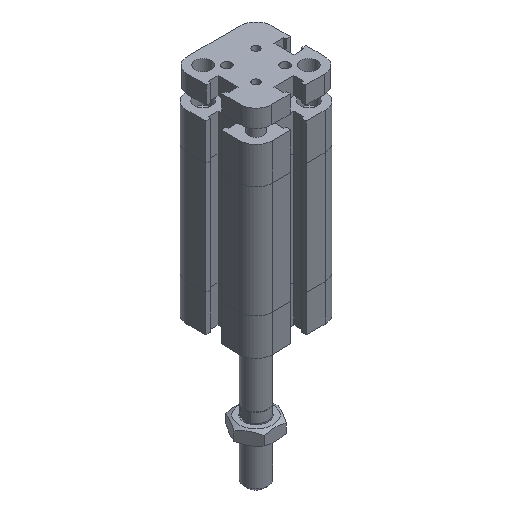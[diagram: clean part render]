
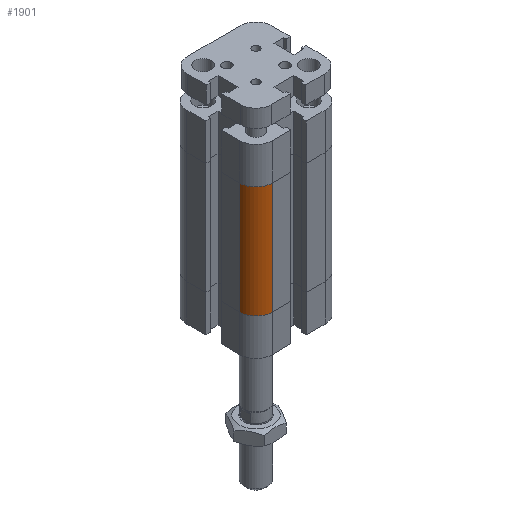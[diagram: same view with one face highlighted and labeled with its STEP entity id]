
A CAD part, isometric view. The second image highlights one B-rep face of the part: STEP entity #1901.
In plain terms, the highlighted cylindrical face has radius 5.5 mm (diameter 11 mm), a partial arc.
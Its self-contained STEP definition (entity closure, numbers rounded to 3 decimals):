
#1812=CARTESIAN_POINT('',(-14.5,-9.,12.5));
#1813=VERTEX_POINT('',#1812);
#1820=CARTESIAN_POINT('',(-14.5,-9.,50.5));
#1821=VERTEX_POINT('',#1820);
#1822=CARTESIAN_POINT('',(-14.5,-9.,12.5));
#1823=DIRECTION('',(0.0,0.0,1.0));
#1824=VECTOR('',#1823,38.);
#1825=LINE('',#1822,#1824);
#1826=EDGE_CURVE('',#1813,#1821,#1825,.T.);
#1869=CARTESIAN_POINT('',(-9.,-9.,0.0));
#1870=DIRECTION('',(0.0,0.0,1.0));
#1871=DIRECTION('',(1.0,0.0,0.0));
#1872=AXIS2_PLACEMENT_3D('',#1869,#1870,#1871);
#1873=CYLINDRICAL_SURFACE('',#1872,5.5);
#1874=CARTESIAN_POINT('',(-9.,-14.5,12.5));
#1875=VERTEX_POINT('',#1874);
#1876=CARTESIAN_POINT('',(-9.,-9.,12.5));
#1877=DIRECTION('',(0.0,0.0,1.0));
#1878=DIRECTION('',(1.0,0.0,0.0));
#1879=AXIS2_PLACEMENT_3D('',#1876,#1877,#1878);
#1880=CIRCLE('',#1879,5.5);
#1881=EDGE_CURVE('',#1813,#1875,#1880,.T.);
#1882=ORIENTED_EDGE('',*,*,#1881,.T.);
#1883=CARTESIAN_POINT('',(-9.,-14.5,50.5));
#1884=VERTEX_POINT('',#1883);
#1885=CARTESIAN_POINT('',(-9.,-14.5,12.5));
#1886=DIRECTION('',(0.0,0.0,1.0));
#1887=VECTOR('',#1886,38.);
#1888=LINE('',#1885,#1887);
#1889=EDGE_CURVE('',#1875,#1884,#1888,.T.);
#1890=ORIENTED_EDGE('',*,*,#1889,.T.);
#1891=CARTESIAN_POINT('',(-9.,-9.,50.5));
#1892=DIRECTION('',(0.0,0.0,1.0));
#1893=DIRECTION('',(1.0,0.0,0.0));
#1894=AXIS2_PLACEMENT_3D('',#1891,#1892,#1893);
#1895=CIRCLE('',#1894,5.5);
#1896=EDGE_CURVE('',#1821,#1884,#1895,.T.);
#1897=ORIENTED_EDGE('',*,*,#1896,.F.);
#1898=ORIENTED_EDGE('',*,*,#1826,.F.);
#1899=EDGE_LOOP('',(#1882,#1890,#1897,#1898));
#1900=FACE_OUTER_BOUND('',#1899,.T.);
#1901=ADVANCED_FACE('',(#1900),#1873,.T.);
